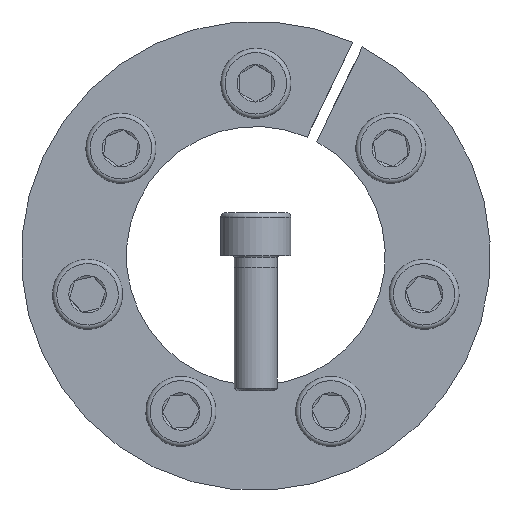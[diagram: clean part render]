
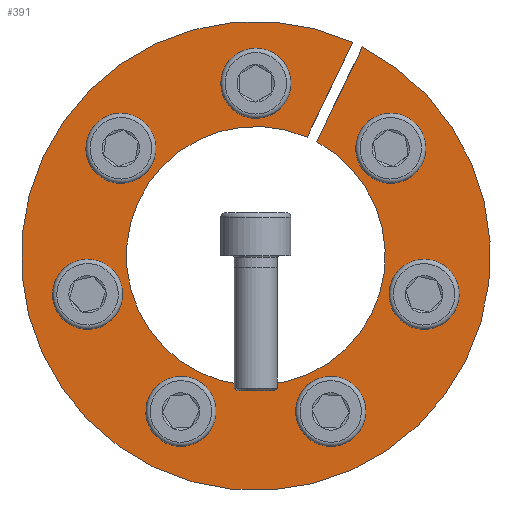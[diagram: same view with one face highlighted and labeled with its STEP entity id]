
A CAD part, front view. The second image highlights one B-rep face of the part: STEP entity #391.
In plain terms, the highlighted planar face has unit normal (0, -1, 0).
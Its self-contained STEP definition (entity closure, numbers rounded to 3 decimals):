
#391 = ADVANCED_FACE( '', ( #642, #643, #644, #645, #646, #647, #648, #649 ), #650, .F. );
#642 = FACE_OUTER_BOUND( '', #796, .T. );
#643 = FACE_BOUND( '', #797, .T. );
#644 = FACE_BOUND( '', #798, .T. );
#645 = FACE_BOUND( '', #799, .T. );
#646 = FACE_BOUND( '', #800, .T. );
#647 = FACE_BOUND( '', #801, .T. );
#648 = FACE_BOUND( '', #802, .T. );
#649 = FACE_BOUND( '', #803, .T. );
#650 = PLANE( '', #804 );
#796 = EDGE_LOOP( '', ( #1054, #1055, #1056, #1057 ) );
#797 = EDGE_LOOP( '', ( #1058 ) );
#798 = EDGE_LOOP( '', ( #1059 ) );
#799 = EDGE_LOOP( '', ( #1060 ) );
#800 = EDGE_LOOP( '', ( #1061 ) );
#801 = EDGE_LOOP( '', ( #1062 ) );
#802 = EDGE_LOOP( '', ( #1063 ) );
#803 = EDGE_LOOP( '', ( #1064 ) );
#804 = AXIS2_PLACEMENT_3D( '', #1065, #1066, #1067 );
#1054 = ORIENTED_EDGE( '', *, *, #1245, .T. );
#1055 = ORIENTED_EDGE( '', *, *, #1232, .T. );
#1056 = ORIENTED_EDGE( '', *, *, #1261, .T. );
#1057 = ORIENTED_EDGE( '', *, *, #1286, .F. );
#1058 = ORIENTED_EDGE( '', *, *, #1274, .F. );
#1059 = ORIENTED_EDGE( '', *, *, #1276, .F. );
#1060 = ORIENTED_EDGE( '', *, *, #1284, .F. );
#1061 = ORIENTED_EDGE( '', *, *, #1270, .F. );
#1062 = ORIENTED_EDGE( '', *, *, #1272, .F. );
#1063 = ORIENTED_EDGE( '', *, *, #1279, .F. );
#1064 = ORIENTED_EDGE( '', *, *, #1285, .F. );
#1065 = CARTESIAN_POINT( '', ( 0., 0., 43.5 ) );
#1066 = DIRECTION( '', ( 0., 1., 0. ) );
#1067 = DIRECTION( '', ( 1., 0., 0. ) );
#1232 = EDGE_CURVE( '', #1351, #1355, #1357, .T. );
#1245 = EDGE_CURVE( '', #1382, #1351, #1383, .T. );
#1261 = EDGE_CURVE( '', #1355, #1408, #1410, .T. );
#1270 = EDGE_CURVE( '', #1425, #1425, #1426, .T. );
#1272 = EDGE_CURVE( '', #1429, #1429, #1430, .T. );
#1274 = EDGE_CURVE( '', #1433, #1433, #1434, .T. );
#1276 = EDGE_CURVE( '', #1437, #1437, #1438, .T. );
#1279 = EDGE_CURVE( '', #1442, #1442, #1443, .T. );
#1284 = EDGE_CURVE( '', #1451, #1451, #1452, .T. );
#1285 = EDGE_CURVE( '', #1453, #1453, #1454, .T. );
#1286 = EDGE_CURVE( '', #1382, #1408, #1455, .T. );
#1351 = VERTEX_POINT( '', #1457 );
#1355 = VERTEX_POINT( '', #1462 );
#1357 = CIRCLE( '', #1465, 43.5 );
#1382 = VERTEX_POINT( '', #1492 );
#1383 = LINE( '', #1493, #1494 );
#1408 = VERTEX_POINT( '', #1532 );
#1410 = LINE( '', #1535, #1536 );
#1425 = VERTEX_POINT( '', #1551 );
#1426 = CIRCLE( '', #1552, 4.5 );
#1429 = VERTEX_POINT( '', #1555 );
#1430 = CIRCLE( '', #1556, 4.5 );
#1433 = VERTEX_POINT( '', #1559 );
#1434 = CIRCLE( '', #1560, 4.5 );
#1437 = VERTEX_POINT( '', #1563 );
#1438 = CIRCLE( '', #1564, 4.5 );
#1442 = VERTEX_POINT( '', #1568 );
#1443 = CIRCLE( '', #1569, 4.5 );
#1451 = VERTEX_POINT( '', #1577 );
#1452 = CIRCLE( '', #1578, 4.5 );
#1453 = VERTEX_POINT( '', #1579 );
#1454 = CIRCLE( '', #1580, 4.5 );
#1455 = CIRCLE( '', #1581, 24. );
#1457 = CARTESIAN_POINT( '', ( 17.968, 0., 39.616 ) );
#1462 = CARTESIAN_POINT( '', ( 19.77, 0., 38.748 ) );
#1465 = AXIS2_PLACEMENT_3D( '', #1587, #1588, #1589 );
#1492 = CARTESIAN_POINT( '', ( 9.503, 0., 22.038 ) );
#1493 = CARTESIAN_POINT( '', ( 9.503, 0., 22.038 ) );
#1494 = VECTOR( '', #1622, 1000. );
#1532 = CARTESIAN_POINT( '', ( 11.305, 0., 21.171 ) );
#1535 = CARTESIAN_POINT( '', ( 19.775, 0., 38.758 ) );
#1536 = VECTOR( '', #1640, 1000. );
#1551 = CARTESIAN_POINT( '', ( 9.83, 0., -30.783 ) );
#1552 = AXIS2_PLACEMENT_3D( '', #1665, #1666, #1667 );
#1555 = CARTESIAN_POINT( '', ( -17.939, 0., -26.879 ) );
#1556 = AXIS2_PLACEMENT_3D( '', #1671, #1672, #1673 );
#1559 = CARTESIAN_POINT( '', ( 4.5, 0., 32. ) );
#1560 = AXIS2_PLACEMENT_3D( '', #1677, #1678, #1679 );
#1563 = CARTESIAN_POINT( '', ( 27.824, 0., 16.433 ) );
#1564 = AXIS2_PLACEMENT_3D( '', #1683, #1684, #1685 );
#1568 = CARTESIAN_POINT( '', ( -32.199, 0., -2.733 ) );
#1569 = AXIS2_PLACEMENT_3D( '', #1692, #1693, #1694 );
#1577 = CARTESIAN_POINT( '', ( 30.196, 0., -11.508 ) );
#1578 = AXIS2_PLACEMENT_3D( '', #1707, #1708, #1709 );
#1579 = CARTESIAN_POINT( '', ( -22.213, 0., 23.47 ) );
#1580 = AXIS2_PLACEMENT_3D( '', #1710, #1711, #1712 );
#1581 = AXIS2_PLACEMENT_3D( '', #1713, #1714, #1715 );
#1587 = CARTESIAN_POINT( '', ( 0., 0., 0. ) );
#1588 = DIRECTION( '', ( 0., -1., 0. ) );
#1589 = DIRECTION( '', ( 0., 0., -1. ) );
#1622 = DIRECTION( '', ( 0.434, 0., 0.901 ) );
#1640 = DIRECTION( '', ( -0.434, 0., -0.901 ) );
#1665 = CARTESIAN_POINT( '', ( 13.884, 0., -28.831 ) );
#1666 = DIRECTION( '', ( 0., -1., 0. ) );
#1667 = DIRECTION( '', ( -0.901, 0., -0.434 ) );
#1671 = CARTESIAN_POINT( '', ( -13.884, 0., -28.831 ) );
#1672 = DIRECTION( '', ( 0., -1., 0. ) );
#1673 = DIRECTION( '', ( -0.901, 0., 0.434 ) );
#1677 = CARTESIAN_POINT( '', ( 0., 0., 32. ) );
#1678 = DIRECTION( '', ( 0., -1., 0. ) );
#1679 = DIRECTION( '', ( 1., 0., 0. ) );
#1683 = CARTESIAN_POINT( '', ( 25.019, 0., 19.952 ) );
#1684 = DIRECTION( '', ( 0., -1., 0. ) );
#1685 = DIRECTION( '', ( 0.623, 0., -0.782 ) );
#1692 = CARTESIAN_POINT( '', ( -31.198, 0., -7.121 ) );
#1693 = DIRECTION( '', ( 0., -1., 0. ) );
#1694 = DIRECTION( '', ( -0.223, 0., 0.975 ) );
#1707 = CARTESIAN_POINT( '', ( 31.198, 0., -7.121 ) );
#1708 = DIRECTION( '', ( 0., -1., 0. ) );
#1709 = DIRECTION( '', ( -0.223, 0., -0.975 ) );
#1710 = CARTESIAN_POINT( '', ( -25.019, 0., 19.952 ) );
#1711 = DIRECTION( '', ( 0., -1., 0. ) );
#1712 = DIRECTION( '', ( 0.623, 0., 0.782 ) );
#1713 = CARTESIAN_POINT( '', ( 0., 0., 0. ) );
#1714 = DIRECTION( '', ( 0., -1., 0. ) );
#1715 = DIRECTION( '', ( 0., 0., -1. ) );
